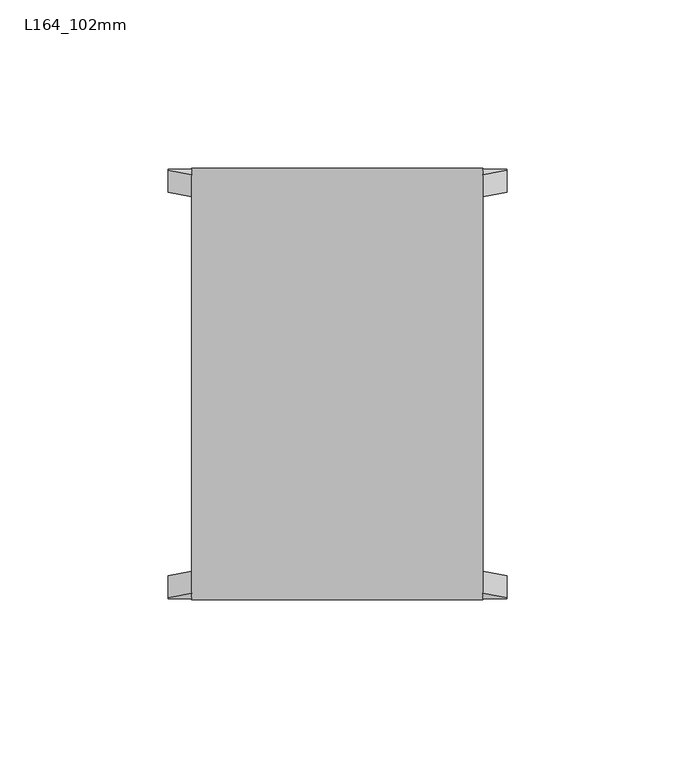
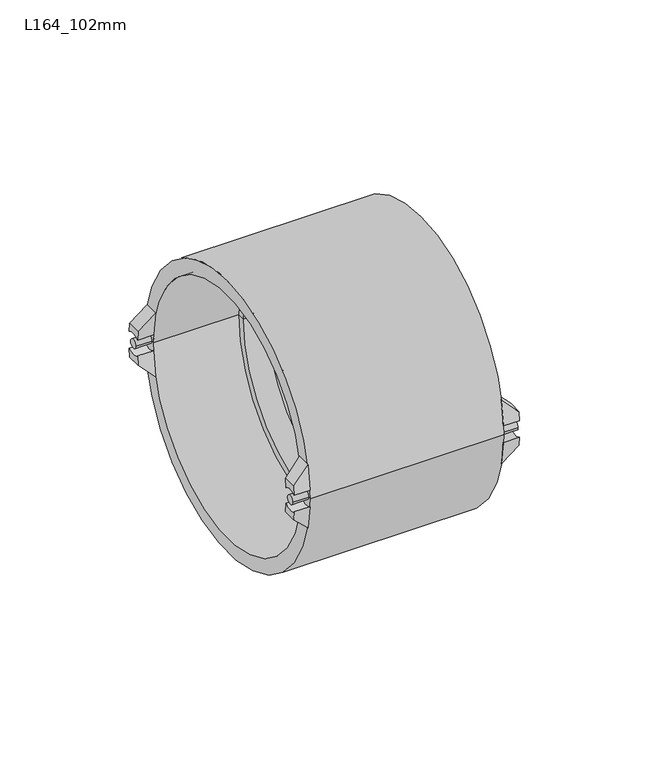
"""IFC4 building model written with IfcOpenShell, lengths in millimetres: pipe fitting geometry, Durapipe_PipeFitting_VulcatheneEnfusion_Coupling_L16 : L164_102mm."""

from ifc_helpers import new_model, si_unit, point, frame, frame_2d, origin, place, context, project, spatial, polyline, circle_curve, ellipse_curve, trimmed, segment, composite_curve, outline, extrude, source, transform, mapped, element, save
from ifc_brep_helpers import plane_surface, cylinder_surface, revolved_surface, advanced_brep


def l164_102mm_7c159738(model_context):
    return source(origin(), model_context, "Body", "SolidModel", [
        advanced_brep(
        [(-50.45, -57.5287182, 3.7375242), (-50.45, -63.9287182, 3.9397328), (-50.45, -63.5559509, 7.94), (-50.45, -57.1006033, 7.94), (-43.35, -62.2687923, 15.0), (-43.35, -63.9287182, 3.9397328), (-43.35, -57.5287182, 3.7375242), (-43.35, -55.6643737, 15.0)],
        [
            (0, 1, circle_curve(frame((-50.45, -60.85, 0.0), z_axis=(1.0, 0.0, 0.0), x_axis=(0.0, 1.0, 0.0)), 5.0)),
            (1, 2, circle_curve(frame((-50.45, 0.0, 0.0), z_axis=(-1.0, 0.0, 0.0), x_axis=(0.0, 1.0, 0.0)), 64.05)),
            (2, 3),
            (3, 0, circle_curve(frame((-50.45, 0.0, 0.0), z_axis=(1.0, 0.0, 0.0), x_axis=(0.0, 1.0, 0.0)), 57.65)),
            (4, 5, circle_curve(frame((-43.35, 0.0, 0.0), z_axis=(1.0, 0.0, 0.0), x_axis=(0.0, 1.0, 0.0)), 64.05)),
            (5, 6, circle_curve(frame((-43.35, -60.85, 0.0), z_axis=(-1.0, 0.0, 0.0), x_axis=(0.0, 1.0, 0.0)), 5.0)),
            (6, 7, circle_curve(frame((-43.35, 0.0, 0.0), z_axis=(-1.0, 0.0, 0.0), x_axis=(0.0, 1.0, 0.0)), 57.65)),
            (7, 4),
            (6, 0),
            (3, 7, ellipse_curve(frame((-58.4349858, 0.0, 0.0), z_axis=(-0.7051064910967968, 0.0, 0.7091014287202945), x_axis=(0.7091014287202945, 0.0, 0.7051064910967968)), 81.7606996, 57.65)),
            (4, 2, ellipse_curve(frame((-58.4349858, 0.0, 0.0), z_axis=(0.7051064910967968, 0.0, -0.7091014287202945), x_axis=(-0.7091014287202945, 0.0, -0.7051064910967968)), 90.8373427, 64.05)),
            (1, 5),
        ],
        [
            plane_surface(frame((-50.45, -62.2687923, 15.0), z_axis=(-1.0, 0.0, 0.0), x_axis=(0.0, 1.0, 0.0))),
            plane_surface(frame((-43.35, -62.2687923, 15.0), z_axis=(1.0, 0.0, 0.0), x_axis=(0.0, -1.0, 0.0))),
            revolved_surface(polyline([(-0.4583569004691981, 57.65, 0.0), (-116.41161469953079, 57.65, 0.0)]), (-43.35, 0.0, 0.0), (1.0, 0.0, 0.0)),
            cylinder_surface(frame((-43.35, 0.0, 0.0), z_axis=(-1.0, 0.0, 0.0), x_axis=(0.0, 1.0, 0.0)), 64.05),
            revolved_surface(polyline([(-50.45, -55.85, 0.0), (-43.35, -55.85, 0.0)]), (-43.35, -60.85, 0.0), (-1.0, 0.0, 0.0)),
            plane_surface(frame((-43.35, 64.05, 15.0), z_axis=(-0.7051064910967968, 0.0, 0.7091014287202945), x_axis=(0.0, -1.0, 0.0))),
        ],
        [
            (0, [[1, 2, 3, 4]]),
            (1, [[5, 6, 7, 8]]),
            (2, [[-7, 9, -4, 10]]),
            (3, [[-5, 11, -2, 12]]),
            (4, [[-1, -9, -6, -12]]),
            (5, [[-3, -11, -8, -10]]),
        ],
    ),
        advanced_brep(
        [(-50.45, -63.9287182, -3.9397328), (-50.45, -57.5287182, -3.7375242), (-50.45, -57.1006033, -7.94), (-50.45, -63.5559509, -7.94), (-43.35, -63.9287182, -3.9397328), (-43.35, -62.2687923, -15.0), (-43.35, -55.6643737, -15.0), (-43.35, -57.5287182, -3.7375242)],
        [
            (0, 1, circle_curve(frame((-50.45, -60.85, 0.0), z_axis=(1.0, 0.0, 0.0), x_axis=(0.0, 1.0, 0.0)), 5.0)),
            (1, 2, circle_curve(frame((-50.45, 0.0, 0.0), z_axis=(1.0, 0.0, 0.0), x_axis=(0.0, 1.0, 0.0)), 57.65)),
            (2, 3),
            (3, 0, circle_curve(frame((-50.45, 0.0, 0.0), z_axis=(-1.0, 0.0, 0.0), x_axis=(0.0, 1.0, 0.0)), 64.05)),
            (4, 5, circle_curve(frame((-43.35, 0.0, 0.0), z_axis=(1.0, 0.0, 0.0), x_axis=(0.0, 1.0, 0.0)), 64.05)),
            (5, 6),
            (6, 7, circle_curve(frame((-43.35, 0.0, 0.0), z_axis=(-1.0, 0.0, 0.0), x_axis=(0.0, 1.0, 0.0)), 57.65)),
            (7, 4, circle_curve(frame((-43.35, -60.85, 0.0), z_axis=(-1.0, 0.0, 0.0), x_axis=(0.0, 1.0, 0.0)), 5.0)),
            (6, 2, ellipse_curve(frame((-58.4349858, 0.0, 0.0), z_axis=(-0.7051064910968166, 0.0, -0.7091014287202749), x_axis=(0.7091014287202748, 0.0, -0.7051064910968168)), 81.7606996, 57.65)),
            (1, 7),
            (4, 0),
            (3, 5, ellipse_curve(frame((-58.4349858, 0.0, 0.0), z_axis=(0.7051064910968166, 0.0, 0.7091014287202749), x_axis=(-0.7091014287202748, 0.0, 0.7051064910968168)), 90.8373427, 64.05)),
        ],
        [
            plane_surface(frame((-50.45, -62.2687923, 15.0), z_axis=(-1.0, 0.0, 0.0), x_axis=(0.0, 1.0, 0.0))),
            plane_surface(frame((-43.35, -62.2687923, 15.0), z_axis=(1.0, 0.0, 0.0), x_axis=(0.0, -1.0, 0.0))),
            revolved_surface(polyline([(-0.4583569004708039, 57.65, 0.0), (-116.4116146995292, 57.65, 0.0)]), (-43.35, 0.0, 0.0), (1.0, 0.0, 0.0)),
            cylinder_surface(frame((-43.35, 0.0, 0.0), z_axis=(-1.0, 0.0, 0.0), x_axis=(0.0, 1.0, 0.0)), 64.05),
            revolved_surface(polyline([(-50.45, -55.85, 0.0), (-43.35, -55.85, 0.0)]), (-43.35, -60.85, 0.0), (-1.0, 0.0, 0.0)),
            plane_surface(frame((-50.45, 64.05, -7.94), z_axis=(-0.7051064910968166, 0.0, -0.7091014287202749), x_axis=(0.0, -1.0, 0.0))),
        ],
        [
            (0, [[1, 2, 3, 4]]),
            (1, [[5, 6, 7, 8]]),
            (2, [[-7, 9, -2, 10]]),
            (3, [[-5, 11, -4, 12]]),
            (4, [[-1, -11, -8, -10]]),
            (5, [[-3, -9, -6, -12]]),
        ],
    ),
        advanced_brep(
        [(-50.45, 63.9287182, 3.9397328), (-50.45, 57.5287182, 3.7375242), (-50.45, 57.1006033, 7.94), (-50.45, 63.5559509, 7.94), (-43.35, 63.9287182, 3.9397328), (-43.35, 62.2687923, 15.0), (-43.35, 55.6643737, 15.0), (-43.35, 57.5287182, 3.7375242)],
        [
            (0, 1, circle_curve(frame((-50.45, 60.85, 0.0), z_axis=(1.0, 0.0, 0.0), x_axis=(0.0, 1.0, 0.0)), 5.0)),
            (1, 2, circle_curve(frame((-50.45, 0.0, 0.0), z_axis=(1.0, 0.0, 0.0), x_axis=(0.0, 1.0, 0.0)), 57.65)),
            (2, 3),
            (3, 0, circle_curve(frame((-50.45, 0.0, 0.0), z_axis=(-1.0, 0.0, 0.0), x_axis=(0.0, 1.0, 0.0)), 64.05)),
            (4, 5, circle_curve(frame((-43.35, 0.0, 0.0), z_axis=(1.0, 0.0, 0.0), x_axis=(0.0, 1.0, 0.0)), 64.05)),
            (5, 6),
            (6, 7, circle_curve(frame((-43.35, 0.0, 0.0), z_axis=(-1.0, 0.0, 0.0), x_axis=(0.0, 1.0, 0.0)), 57.65)),
            (7, 4, circle_curve(frame((-43.35, 60.85, 0.0), z_axis=(-1.0, 0.0, 0.0), x_axis=(0.0, 1.0, 0.0)), 5.0)),
            (6, 2, ellipse_curve(frame((-58.4349858, 0.0, 0.0), z_axis=(-0.7051064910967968, 0.0, 0.7091014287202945), x_axis=(0.7091014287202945, 0.0, 0.7051064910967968)), 81.7606996, 57.65)),
            (1, 7),
            (4, 0),
            (3, 5, ellipse_curve(frame((-58.4349858, 0.0, 0.0), z_axis=(0.7051064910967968, 0.0, -0.7091014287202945), x_axis=(-0.7091014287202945, 0.0, -0.7051064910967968)), 90.8373427, 64.05)),
        ],
        [
            plane_surface(frame((-50.45, -62.2687923, 15.0), z_axis=(-1.0, 0.0, 0.0), x_axis=(0.0, 1.0, 0.0))),
            plane_surface(frame((-43.35, -62.2687923, 15.0), z_axis=(1.0, 0.0, 0.0), x_axis=(0.0, -1.0, 0.0))),
            revolved_surface(polyline([(-0.4583569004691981, 57.65, 0.0), (-116.41161469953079, 57.65, 0.0)]), (-43.35, 0.0, 0.0), (1.0, 0.0, 0.0)),
            cylinder_surface(frame((-43.35, 0.0, 0.0), z_axis=(-1.0, 0.0, 0.0), x_axis=(0.0, 1.0, 0.0)), 64.05),
            revolved_surface(polyline([(-50.45, 65.85, 0.0), (-43.35, 65.85, 0.0)]), (-43.35, 60.85, 0.0), (-1.0, 0.0, 0.0)),
            plane_surface(frame((-43.35, 64.05, 15.0), z_axis=(-0.7051064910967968, 0.0, 0.7091014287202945), x_axis=(0.0, -1.0, 0.0))),
        ],
        [
            (0, [[1, 2, 3, 4]]),
            (1, [[5, 6, 7, 8]]),
            (2, [[-7, 9, -2, 10]]),
            (3, [[-5, 11, -4, 12]]),
            (4, [[-1, -11, -8, -10]]),
            (5, [[-3, -9, -6, -12]]),
        ],
    ),
        advanced_brep(
        [(-50.45, 57.5287182, -3.7375242), (-50.45, 63.9287182, -3.9397328), (-50.45, 63.5559509, -7.94), (-50.45, 57.1006033, -7.94), (-43.35, 62.2687923, -15.0), (-43.35, 63.9287182, -3.9397328), (-43.35, 57.5287182, -3.7375242), (-43.35, 55.6643737, -15.0)],
        [
            (0, 1, circle_curve(frame((-50.45, 60.85, 0.0), z_axis=(1.0, 0.0, 0.0), x_axis=(0.0, 1.0, 0.0)), 5.0)),
            (1, 2, circle_curve(frame((-50.45, 0.0, 0.0), z_axis=(-1.0, 0.0, 0.0), x_axis=(0.0, 1.0, 0.0)), 64.05)),
            (2, 3),
            (3, 0, circle_curve(frame((-50.45, 0.0, 0.0), z_axis=(1.0, 0.0, 0.0), x_axis=(0.0, 1.0, 0.0)), 57.65)),
            (4, 5, circle_curve(frame((-43.35, 0.0, 0.0), z_axis=(1.0, 0.0, 0.0), x_axis=(0.0, 1.0, 0.0)), 64.05)),
            (5, 6, circle_curve(frame((-43.35, 60.85, 0.0), z_axis=(-1.0, 0.0, 0.0), x_axis=(0.0, 1.0, 0.0)), 5.0)),
            (6, 7, circle_curve(frame((-43.35, 0.0, 0.0), z_axis=(-1.0, 0.0, 0.0), x_axis=(0.0, 1.0, 0.0)), 57.65)),
            (7, 4),
            (6, 0),
            (3, 7, ellipse_curve(frame((-58.4349858, 0.0, 0.0), z_axis=(-0.7051064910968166, 0.0, -0.7091014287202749), x_axis=(0.7091014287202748, 0.0, -0.7051064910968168)), 81.7606996, 57.65)),
            (4, 2, ellipse_curve(frame((-58.4349858, 0.0, 0.0), z_axis=(0.7051064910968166, 0.0, 0.7091014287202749), x_axis=(-0.7091014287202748, 0.0, 0.7051064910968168)), 90.8373427, 64.05)),
            (1, 5),
        ],
        [
            plane_surface(frame((-50.45, -62.2687923, 15.0), z_axis=(-1.0, 0.0, 0.0), x_axis=(0.0, 1.0, 0.0))),
            plane_surface(frame((-43.35, -62.2687923, 15.0), z_axis=(1.0, 0.0, 0.0), x_axis=(0.0, -1.0, 0.0))),
            revolved_surface(polyline([(-0.4583569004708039, 57.65, 0.0), (-116.4116146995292, 57.65, 0.0)]), (-43.35, 0.0, 0.0), (1.0, 0.0, 0.0)),
            cylinder_surface(frame((-43.35, 0.0, 0.0), z_axis=(-1.0, 0.0, 0.0), x_axis=(0.0, 1.0, 0.0)), 64.05),
            revolved_surface(polyline([(-50.45, 65.85, 0.0), (-43.35, 65.85, 0.0)]), (-43.35, 60.85, 0.0), (-1.0, 0.0, 0.0)),
            plane_surface(frame((-50.45, 64.05, -7.94), z_axis=(-0.7051064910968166, 0.0, -0.7091014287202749), x_axis=(0.0, -1.0, 0.0))),
        ],
        [
            (0, [[1, 2, 3, 4]]),
            (1, [[5, 6, 7, 8]]),
            (2, [[-7, 9, -4, 10]]),
            (3, [[-5, 11, -2, 12]]),
            (4, [[-1, -9, -6, -12]]),
            (5, [[-3, -11, -8, -10]]),
        ],
    ),
        extrude(outline(composite_curve([segment(trimmed(circle_curve(frame_2d((-60.85, 0.0)), 2.0), [point((-62.85, 0.0))], [point((-58.85, 0.0))], False, "CARTESIAN"), True, "CONTINUOUS"), segment(trimmed(circle_curve(frame_2d((-60.85, 0.0)), 2.0), [point((-58.85, 0.0))], [point((-62.85, 0.0))], False, "CARTESIAN"), True, "CONTINUOUS")], self_intersect=False)), frame((-50.45, 0.0, 0.0), z_axis=(1.0, 0.0, 0.0), x_axis=(0.0, 1.0, 0.0)), (0.0, 0.0, 1.0), 7.1),
        extrude(outline(composite_curve([segment(trimmed(circle_curve(frame_2d((60.85, 0.0)), 2.0), [point((58.85, 0.0))], [point((62.85, 0.0))], False, "CARTESIAN"), True, "CONTINUOUS"), segment(trimmed(circle_curve(frame_2d((60.85, 0.0)), 2.0), [point((62.85, 0.0))], [point((58.85, 0.0))], False, "CARTESIAN"), True, "CONTINUOUS")], self_intersect=False)), frame((-50.45, 0.0, 0.0), z_axis=(1.0, 0.0, 0.0), x_axis=(0.0, 1.0, 0.0)), (0.0, 0.0, 1.0), 7.1),
        advanced_brep(
        [(50.45, -57.5287182, -3.7375242), (50.45, -63.9287182, -3.9397328), (50.45, -63.5559509, -7.94), (50.45, -57.1006033, -7.94), (43.35, -62.2687923, -15.0), (43.35, -63.9287182, -3.9397328), (43.35, -57.5287182, -3.7375242), (43.35, -55.6643737, -15.0)],
        [
            (0, 1, circle_curve(frame((50.45, -60.85, 0.0), z_axis=(-1.0, 0.0, 0.0), x_axis=(0.0, 1.0, 0.0)), 5.0)),
            (1, 2, circle_curve(frame((50.45, 0.0, 0.0), z_axis=(1.0, 0.0, 0.0), x_axis=(0.0, 1.0, 0.0)), 64.05)),
            (2, 3),
            (3, 0, circle_curve(frame((50.45, 0.0, 0.0), z_axis=(-1.0, 0.0, 0.0), x_axis=(0.0, 1.0, 0.0)), 57.65)),
            (4, 5, circle_curve(frame((43.35, 0.0, 0.0), z_axis=(-1.0, 0.0, 0.0), x_axis=(0.0, 1.0, 0.0)), 64.05)),
            (5, 6, circle_curve(frame((43.35, -60.85, 0.0), z_axis=(1.0, 0.0, 0.0), x_axis=(0.0, 1.0, 0.0)), 5.0)),
            (6, 7, circle_curve(frame((43.35, 0.0, 0.0), z_axis=(1.0, 0.0, 0.0), x_axis=(0.0, 1.0, 0.0)), 57.65)),
            (7, 4),
            (6, 0),
            (3, 7, ellipse_curve(frame((58.4349858, 0.0, 0.0), z_axis=(0.7051064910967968, 0.0, -0.7091014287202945), x_axis=(-0.7091014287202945, 0.0, -0.7051064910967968)), 81.7606996, 57.65)),
            (4, 2, ellipse_curve(frame((58.4349858, 0.0, 0.0), z_axis=(-0.7051064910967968, 0.0, 0.7091014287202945), x_axis=(0.7091014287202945, 0.0, 0.7051064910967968)), 90.8373427, 64.05)),
            (1, 5),
        ],
        [
            plane_surface(frame((50.45, -62.2687923, -15.0), z_axis=(1.0, 0.0, 0.0), x_axis=(0.0, 1.0, 0.0))),
            plane_surface(frame((43.35, -62.2687923, -15.0), z_axis=(-1.0, 0.0, 0.0), x_axis=(0.0, -1.0, 0.0))),
            revolved_surface(polyline([(0.4583569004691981, 57.65, 0.0), (116.41161469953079, 57.65, 0.0)]), (43.35, 0.0, 0.0), (-1.0, 0.0, 0.0)),
            cylinder_surface(frame((43.35, 0.0, 0.0), z_axis=(1.0, 0.0, 0.0), x_axis=(0.0, 1.0, 0.0)), 64.05),
            revolved_surface(polyline([(50.45, -55.85, 0.0), (43.35, -55.85, 0.0)]), (43.35, -60.85, 0.0), (1.0, 0.0, 0.0)),
            plane_surface(frame((43.35, 64.05, -15.0), z_axis=(0.7051064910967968, 0.0, -0.7091014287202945), x_axis=(0.0, -1.0, 0.0))),
        ],
        [
            (0, [[1, 2, 3, 4]]),
            (1, [[5, 6, 7, 8]]),
            (2, [[-7, 9, -4, 10]]),
            (3, [[-5, 11, -2, 12]]),
            (4, [[-1, -9, -6, -12]]),
            (5, [[-3, -11, -8, -10]]),
        ],
    ),
        advanced_brep(
        [(50.45, -63.9287182, 3.9397328), (50.45, -57.5287182, 3.7375242), (50.45, -57.1006033, 7.94), (50.45, -63.5559509, 7.94), (43.35, -63.9287182, 3.9397328), (43.35, -62.2687923, 15.0), (43.35, -55.6643737, 15.0), (43.35, -57.5287182, 3.7375242)],
        [
            (0, 1, circle_curve(frame((50.45, -60.85, 0.0), z_axis=(-1.0, 0.0, 0.0), x_axis=(0.0, 1.0, 0.0)), 5.0)),
            (1, 2, circle_curve(frame((50.45, 0.0, 0.0), z_axis=(-1.0, 0.0, 0.0), x_axis=(0.0, 1.0, 0.0)), 57.65)),
            (2, 3),
            (3, 0, circle_curve(frame((50.45, 0.0, 0.0), z_axis=(1.0, 0.0, 0.0), x_axis=(0.0, 1.0, 0.0)), 64.05)),
            (4, 5, circle_curve(frame((43.35, 0.0, 0.0), z_axis=(-1.0, 0.0, 0.0), x_axis=(0.0, 1.0, 0.0)), 64.05)),
            (5, 6),
            (6, 7, circle_curve(frame((43.35, 0.0, 0.0), z_axis=(1.0, 0.0, 0.0), x_axis=(0.0, 1.0, 0.0)), 57.65)),
            (7, 4, circle_curve(frame((43.35, -60.85, 0.0), z_axis=(1.0, 0.0, 0.0), x_axis=(0.0, 1.0, 0.0)), 5.0)),
            (6, 2, ellipse_curve(frame((58.4349858, 0.0, 0.0), z_axis=(0.7051064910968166, 0.0, 0.7091014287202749), x_axis=(-0.7091014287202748, 0.0, 0.7051064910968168)), 81.7606996, 57.65)),
            (1, 7),
            (4, 0),
            (3, 5, ellipse_curve(frame((58.4349858, 0.0, 0.0), z_axis=(-0.7051064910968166, 0.0, -0.7091014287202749), x_axis=(0.7091014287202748, 0.0, -0.7051064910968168)), 90.8373427, 64.05)),
        ],
        [
            plane_surface(frame((50.45, -62.2687923, -15.0), z_axis=(1.0, 0.0, 0.0), x_axis=(0.0, 1.0, 0.0))),
            plane_surface(frame((43.35, -62.2687923, -15.0), z_axis=(-1.0, 0.0, 0.0), x_axis=(0.0, -1.0, 0.0))),
            revolved_surface(polyline([(0.4583569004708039, 57.65, 0.0), (116.4116146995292, 57.65, 0.0)]), (43.35, 0.0, 0.0), (-1.0, 0.0, 0.0)),
            cylinder_surface(frame((43.35, 0.0, 0.0), z_axis=(1.0, 0.0, 0.0), x_axis=(0.0, 1.0, 0.0)), 64.05),
            revolved_surface(polyline([(50.45, -55.85, 0.0), (43.35, -55.85, 0.0)]), (43.35, -60.85, 0.0), (1.0, 0.0, 0.0)),
            plane_surface(frame((50.45, 64.05, 7.94), z_axis=(0.7051064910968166, 0.0, 0.7091014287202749), x_axis=(0.0, -1.0, 0.0))),
        ],
        [
            (0, [[1, 2, 3, 4]]),
            (1, [[5, 6, 7, 8]]),
            (2, [[-7, 9, -2, 10]]),
            (3, [[-5, 11, -4, 12]]),
            (4, [[-1, -11, -8, -10]]),
            (5, [[-3, -9, -6, -12]]),
        ],
    ),
        advanced_brep(
        [(50.45, 63.9287182, -3.9397328), (50.45, 57.5287182, -3.7375242), (50.45, 57.1006033, -7.94), (50.45, 63.5559509, -7.94), (43.35, 63.9287182, -3.9397328), (43.35, 62.2687923, -15.0), (43.35, 55.6643737, -15.0), (43.35, 57.5287182, -3.7375242)],
        [
            (0, 1, circle_curve(frame((50.45, 60.85, 0.0), z_axis=(-1.0, 0.0, 0.0), x_axis=(0.0, 1.0, 0.0)), 5.0)),
            (1, 2, circle_curve(frame((50.45, 0.0, 0.0), z_axis=(-1.0, 0.0, 0.0), x_axis=(0.0, 1.0, 0.0)), 57.65)),
            (2, 3),
            (3, 0, circle_curve(frame((50.45, 0.0, 0.0), z_axis=(1.0, 0.0, 0.0), x_axis=(0.0, 1.0, 0.0)), 64.05)),
            (4, 5, circle_curve(frame((43.35, 0.0, 0.0), z_axis=(-1.0, 0.0, 0.0), x_axis=(0.0, 1.0, 0.0)), 64.05)),
            (5, 6),
            (6, 7, circle_curve(frame((43.35, 0.0, 0.0), z_axis=(1.0, 0.0, 0.0), x_axis=(0.0, 1.0, 0.0)), 57.65)),
            (7, 4, circle_curve(frame((43.35, 60.85, 0.0), z_axis=(1.0, 0.0, 0.0), x_axis=(0.0, 1.0, 0.0)), 5.0)),
            (6, 2, ellipse_curve(frame((58.4349858, 0.0, 0.0), z_axis=(0.7051064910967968, 0.0, -0.7091014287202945), x_axis=(-0.7091014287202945, 0.0, -0.7051064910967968)), 81.7606996, 57.65)),
            (1, 7),
            (4, 0),
            (3, 5, ellipse_curve(frame((58.4349858, 0.0, 0.0), z_axis=(-0.7051064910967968, 0.0, 0.7091014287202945), x_axis=(0.7091014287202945, 0.0, 0.7051064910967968)), 90.8373427, 64.05)),
        ],
        [
            plane_surface(frame((50.45, -62.2687923, -15.0), z_axis=(1.0, 0.0, 0.0), x_axis=(0.0, 1.0, 0.0))),
            plane_surface(frame((43.35, -62.2687923, -15.0), z_axis=(-1.0, 0.0, 0.0), x_axis=(0.0, -1.0, 0.0))),
            revolved_surface(polyline([(0.4583569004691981, 57.65, 0.0), (116.41161469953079, 57.65, 0.0)]), (43.35, 0.0, 0.0), (-1.0, 0.0, 0.0)),
            cylinder_surface(frame((43.35, 0.0, 0.0), z_axis=(1.0, 0.0, 0.0), x_axis=(0.0, 1.0, 0.0)), 64.05),
            revolved_surface(polyline([(50.45, 65.85, 0.0), (43.35, 65.85, 0.0)]), (43.35, 60.85, 0.0), (1.0, 0.0, 0.0)),
            plane_surface(frame((43.35, 64.05, -15.0), z_axis=(0.7051064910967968, 0.0, -0.7091014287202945), x_axis=(0.0, -1.0, 0.0))),
        ],
        [
            (0, [[1, 2, 3, 4]]),
            (1, [[5, 6, 7, 8]]),
            (2, [[-7, 9, -2, 10]]),
            (3, [[-5, 11, -4, 12]]),
            (4, [[-1, -11, -8, -10]]),
            (5, [[-3, -9, -6, -12]]),
        ],
    ),
        advanced_brep(
        [(50.45, 57.5287182, 3.7375242), (50.45, 63.9287182, 3.9397328), (50.45, 63.5559509, 7.94), (50.45, 57.1006033, 7.94), (43.35, 62.2687923, 15.0), (43.35, 63.9287182, 3.9397328), (43.35, 57.5287182, 3.7375242), (43.35, 55.6643737, 15.0)],
        [
            (0, 1, circle_curve(frame((50.45, 60.85, 0.0), z_axis=(-1.0, 0.0, 0.0), x_axis=(0.0, 1.0, 0.0)), 5.0)),
            (1, 2, circle_curve(frame((50.45, 0.0, 0.0), z_axis=(1.0, 0.0, 0.0), x_axis=(0.0, 1.0, 0.0)), 64.05)),
            (2, 3),
            (3, 0, circle_curve(frame((50.45, 0.0, 0.0), z_axis=(-1.0, 0.0, 0.0), x_axis=(0.0, 1.0, 0.0)), 57.65)),
            (4, 5, circle_curve(frame((43.35, 0.0, 0.0), z_axis=(-1.0, 0.0, 0.0), x_axis=(0.0, 1.0, 0.0)), 64.05)),
            (5, 6, circle_curve(frame((43.35, 60.85, 0.0), z_axis=(1.0, 0.0, 0.0), x_axis=(0.0, 1.0, 0.0)), 5.0)),
            (6, 7, circle_curve(frame((43.35, 0.0, 0.0), z_axis=(1.0, 0.0, 0.0), x_axis=(0.0, 1.0, 0.0)), 57.65)),
            (7, 4),
            (6, 0),
            (3, 7, ellipse_curve(frame((58.4349858, 0.0, 0.0), z_axis=(0.7051064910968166, 0.0, 0.7091014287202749), x_axis=(-0.7091014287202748, 0.0, 0.7051064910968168)), 81.7606996, 57.65)),
            (4, 2, ellipse_curve(frame((58.4349858, 0.0, 0.0), z_axis=(-0.7051064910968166, 0.0, -0.7091014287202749), x_axis=(0.7091014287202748, 0.0, -0.7051064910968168)), 90.8373427, 64.05)),
            (1, 5),
        ],
        [
            plane_surface(frame((50.45, -62.2687923, -15.0), z_axis=(1.0, 0.0, 0.0), x_axis=(0.0, 1.0, 0.0))),
            plane_surface(frame((43.35, -62.2687923, -15.0), z_axis=(-1.0, 0.0, 0.0), x_axis=(0.0, -1.0, 0.0))),
            revolved_surface(polyline([(0.4583569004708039, 57.65, 0.0), (116.4116146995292, 57.65, 0.0)]), (43.35, 0.0, 0.0), (-1.0, 0.0, 0.0)),
            cylinder_surface(frame((43.35, 0.0, 0.0), z_axis=(1.0, 0.0, 0.0), x_axis=(0.0, 1.0, 0.0)), 64.05),
            revolved_surface(polyline([(50.45, 65.85, 0.0), (43.35, 65.85, 0.0)]), (43.35, 60.85, 0.0), (1.0, 0.0, 0.0)),
            plane_surface(frame((50.45, 64.05, 7.94), z_axis=(0.7051064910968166, 0.0, 0.7091014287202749), x_axis=(0.0, -1.0, 0.0))),
        ],
        [
            (0, [[1, 2, 3, 4]]),
            (1, [[5, 6, 7, 8]]),
            (2, [[-7, 9, -4, 10]]),
            (3, [[-5, 11, -2, 12]]),
            (4, [[-1, -9, -6, -12]]),
            (5, [[-3, -11, -8, -10]]),
        ],
    ),
        extrude(outline(composite_curve([segment(trimmed(circle_curve(frame_2d((-60.85, 0.0)), 2.0), [point((-62.85, 0.0))], [point((-58.85, 0.0))], False, "CARTESIAN"), True, "CONTINUOUS"), segment(trimmed(circle_curve(frame_2d((-60.85, 0.0)), 2.0), [point((-58.85, 0.0))], [point((-62.85, 0.0))], False, "CARTESIAN"), True, "CONTINUOUS")], self_intersect=False)), frame((43.35, 0.0, 0.0), z_axis=(1.0, 0.0, 0.0), x_axis=(0.0, 1.0, 0.0)), (0.0, 0.0, 1.0), 7.1),
        extrude(outline(composite_curve([segment(trimmed(circle_curve(frame_2d((60.85, 0.0)), 2.0), [point((58.85, 0.0))], [point((62.85, 0.0))], False, "CARTESIAN"), True, "CONTINUOUS"), segment(trimmed(circle_curve(frame_2d((60.85, 0.0)), 2.0), [point((62.85, 0.0))], [point((58.85, 0.0))], False, "CARTESIAN"), True, "CONTINUOUS")], self_intersect=False)), frame((43.35, 0.0, 0.0), z_axis=(1.0, 0.0, 0.0), x_axis=(0.0, 1.0, 0.0)), (0.0, 0.0, 1.0), 7.1),
        advanced_brep(
        [(-5.2, -57.5, 0.0), (-5.2, 57.5, 0.0), (-43.35, 57.5, 0.0), (-43.35, -57.5, 0.0), (-5.2, -54.0, 0.0), (-5.2, 54.0, 0.0), (5.2, -54.0, 0.0), (5.2, 54.0, 0.0), (5.2, -57.5, 0.0), (5.2, 57.5, 0.0), (43.35, -57.5, 0.0), (43.35, 57.5, 0.0), (43.35, -64.2, 0.0), (43.35, 64.2, 0.0), (-43.35, -64.2, 0.0), (-43.35, 64.2, 0.0)],
        [
            (0, 1, circle_curve(frame((-5.2, 0.0, 0.0), z_axis=(1.0, 0.0, 0.0), x_axis=(0.0, 1.0, 0.0)), 57.5)),
            (1, 2),
            (2, 3, circle_curve(frame((-43.35, 0.0, 0.0), z_axis=(-1.0, 0.0, 0.0), x_axis=(0.0, 1.0, 0.0)), 57.5)),
            (3, 0),
            (1, 0, circle_curve(frame((-5.2, 0.0, 0.0), z_axis=(1.0, 0.0, 0.0), x_axis=(0.0, 1.0, 0.0)), 57.5)),
            (3, 2, circle_curve(frame((-43.35, 0.0, 0.0), z_axis=(-1.0, 0.0, 0.0), x_axis=(0.0, 1.0, 0.0)), 57.5)),
            (4, 5, circle_curve(frame((-5.2, 0.0, 0.0), z_axis=(1.0, 0.0, 0.0), x_axis=(0.0, 1.0, 0.0)), 54.0)),
            (5, 1),
            (0, 4),
            (5, 4, circle_curve(frame((-5.2, 0.0, 0.0), z_axis=(1.0, 0.0, 0.0), x_axis=(0.0, 1.0, 0.0)), 54.0)),
            (6, 7, circle_curve(frame((5.2, 0.0, 0.0), z_axis=(1.0, 0.0, 0.0), x_axis=(0.0, 1.0, 0.0)), 54.0)),
            (7, 5),
            (4, 6),
            (7, 6, circle_curve(frame((5.2, 0.0, 0.0), z_axis=(1.0, 0.0, 0.0), x_axis=(0.0, 1.0, 0.0)), 54.0)),
            (8, 9, circle_curve(frame((5.2, 0.0, 0.0), z_axis=(1.0, 0.0, 0.0), x_axis=(0.0, 1.0, 0.0)), 57.5)),
            (9, 7),
            (6, 8),
            (9, 8, circle_curve(frame((5.2, 0.0, 0.0), z_axis=(1.0, 0.0, 0.0), x_axis=(0.0, 1.0, 0.0)), 57.5)),
            (10, 11, circle_curve(frame((43.35, 0.0, 0.0), z_axis=(1.0, 0.0, 0.0), x_axis=(0.0, 1.0, 0.0)), 57.5)),
            (11, 9),
            (8, 10),
            (11, 10, circle_curve(frame((43.35, 0.0, 0.0), z_axis=(1.0, 0.0, 0.0), x_axis=(0.0, 1.0, 0.0)), 57.5)),
            (12, 13, circle_curve(frame((43.35, 0.0, 0.0), z_axis=(1.0, 0.0, 0.0), x_axis=(0.0, 1.0, 0.0)), 64.2)),
            (13, 11),
            (10, 12),
            (13, 12, circle_curve(frame((43.35, 0.0, 0.0), z_axis=(1.0, 0.0, 0.0), x_axis=(0.0, 1.0, 0.0)), 64.2)),
            (14, 15, circle_curve(frame((-43.35, 0.0, 0.0), z_axis=(1.0, 0.0, 0.0), x_axis=(0.0, 1.0, 0.0)), 64.2)),
            (15, 13),
            (12, 14),
            (15, 14, circle_curve(frame((-43.35, 0.0, 0.0), z_axis=(1.0, 0.0, 0.0), x_axis=(0.0, 1.0, 0.0)), 64.2)),
            (2, 15),
            (14, 3),
        ],
        [
            revolved_surface(polyline([(-43.34999999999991, 57.5, 0.0), (-5.2000000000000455, 57.5, 0.0)]), (1592.5896958, 0.0, 0.0), (-1.0, 0.0, 0.0)),
            plane_surface(frame((-5.2, 0.0, 0.0), z_axis=(-1.0, 0.0, 0.0), x_axis=(0.0, 1.0, 0.0))),
            revolved_surface(polyline([(-5.2000000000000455, 54.0, 0.0), (5.2000000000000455, 54.0, 0.0)]), (1592.5896958, 0.0, 0.0), (-1.0, 0.0, 0.0)),
            plane_surface(frame((5.2, 0.0, 0.0), z_axis=(1.0, 0.0, 0.0), x_axis=(0.0, 1.0, 0.0))),
            revolved_surface(polyline([(5.2000000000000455, 57.5, 0.0), (43.34999999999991, 57.5, 0.0)]), (1592.5896958, 0.0, 0.0), (-1.0, 0.0, 0.0)),
            plane_surface(frame((43.35, 0.0, 0.0), z_axis=(1.0, 0.0, 0.0), x_axis=(0.0, 1.0, 0.0))),
            cylinder_surface(frame((1592.5896958, 0.0, 0.0), z_axis=(-1.0, 0.0, 0.0), x_axis=(0.0, 1.0, 0.0)), 64.2),
            plane_surface(frame((-43.35, 0.0, 0.0), z_axis=(-1.0, 0.0, 0.0), x_axis=(0.0, 1.0, 0.0))),
        ],
        [
            (0, [[1, 2, 3, 4]]),
            (0, [[5, -4, 6, -2]]),
            (1, [[7, 8, -1, 9]]),
            (1, [[10, -9, -5, -8]]),
            (2, [[11, 12, -7, 13]]),
            (2, [[14, -13, -10, -12]]),
            (3, [[15, 16, -11, 17]]),
            (3, [[18, -17, -14, -16]]),
            (4, [[19, 20, -15, 21]]),
            (4, [[22, -21, -18, -20]]),
            (5, [[23, 24, -19, 25]]),
            (5, [[26, -25, -22, -24]]),
            (6, [[27, 28, -23, 29]]),
            (6, [[30, -29, -26, -28]]),
            (7, [[-3, 31, -27, 32]]),
            (7, [[-6, -32, -30, -31]]),
        ],
    ),
    ])


if __name__ == "__main__":
    model = new_model("IFC4")
    model_context = context("Model", 3, world=origin())
    ifc_project = project(units=[si_unit("LENGTHUNIT", "METRE", prefix="MILLI")], contexts=[model_context])
    site = spatial("IfcSite", under=ifc_project)
    building = spatial("IfcBuilding", under=site)
    placement = place(None, origin())
    l164_102mm_shape = l164_102mm_7c159738(model_context)
    element("IfcPipeFitting", 1, ObjectType="Durapipe_PipeFitting_VulcatheneEnfusion_Coupling_L16 : L164_102mm", at=placement, inside=building, context=model_context, shape_type="MappedRepresentation", body=[
        mapped(l164_102mm_shape, transform((0.0, 0.0, 0.0), x_axis=(1.0, 0.0, 0.0), y_axis=(0.0, 1.0, 0.0), z_axis=(0.0, 0.0, 1.0))),
    ])
    save(model, "model.ifc")
